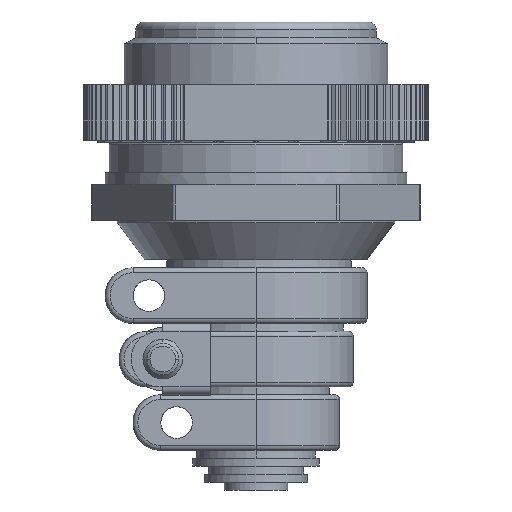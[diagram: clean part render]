
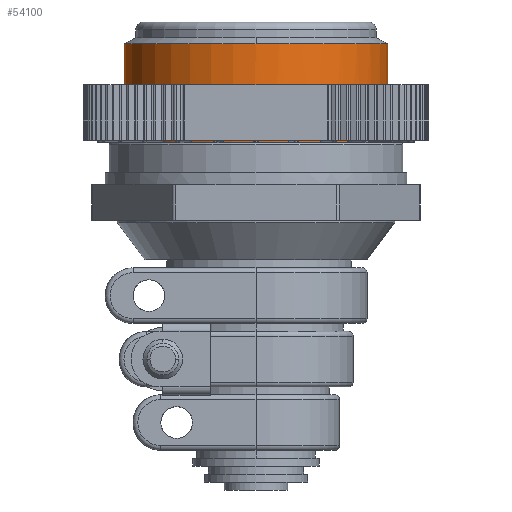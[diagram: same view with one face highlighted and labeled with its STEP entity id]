
A CAD part, left-side view. The second image highlights one B-rep face of the part: STEP entity #54100.
In plain terms, the highlighted cylindrical face has radius 16.625 mm (diameter 33.249 mm), a partial arc.
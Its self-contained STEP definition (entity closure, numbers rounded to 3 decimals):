
#19810=CARTESIAN_POINT('',(48.453,68.49,11.837))
;
#19820=DIRECTION('',(0.,0.,-1.));
#19830=VECTOR('',#19820,1.);
#19840=LINE('',#19810,#19830);
#19850=CARTESIAN_POINT('',(48.453,68.49,-2.771)
);
#19860=VERTEX_POINT('',#19850);
#19870=CARTESIAN_POINT('',(48.453,68.49,-16.5)
);
#19880=VERTEX_POINT('',#19870);
#19890=EDGE_CURVE('',#19860,#19880,#19840,.T.);
#19910=CARTESIAN_POINT('',(48.453,51.865,-16.5)
);
#19920=DIRECTION('',(0.,0.,-1.));
#19930=DIRECTION('',(0.,-1.,0.));
#19940=AXIS2_PLACEMENT_3D('',#19910,#19920,#19930);
#19950=CIRCLE('',#19940,16.625);
#19960=CARTESIAN_POINT('',(48.453,35.241,-16.5)
);
#19970=VERTEX_POINT('',#19960);
#20000=CARTESIAN_POINT('',(48.453,35.241,11.837))
;
#20010=DIRECTION('',(0.,0.,-1.));
#20020=VECTOR('',#20010,1.);
#20030=LINE('',#20000,#20020);
#20040=CARTESIAN_POINT('',(48.453,35.241,-2.771)
);
#20050=VERTEX_POINT('',#20040);
#20060=EDGE_CURVE('',#20050,#19970,#20030,.T.);
#20080=CARTESIAN_POINT('',(48.453,51.865,-2.771)
);
#20090=DIRECTION('',(0.,0.,1.));
#20100=DIRECTION('',(0.,1.,0.));
#20110=AXIS2_PLACEMENT_3D('',#20080,#20090,#20100);
#20120=CIRCLE('',#20110,16.625);
#20960=CARTESIAN_POINT('',(31.828,51.865,-2.771)
);
#20970=VERTEX_POINT('',#20960);
#21000=EDGE_CURVE('',#19860,#20970,#20120,.T.);
#21270=CARTESIAN_POINT('',(32.102,54.872,
-16.5));
#21280=VERTEX_POINT('',#21270);
#21290=EDGE_CURVE('',#21280,#19880,#19950,.T.);
#21310=EDGE_CURVE('',#19970,#21280,#19950,.T.);
#52420=EDGE_CURVE('',#20970,#20050,#20120,.T.);
#53970=CARTESIAN_POINT('',(48.453,51.865,11.837))
;
#53980=DIRECTION('',(0.,0.,-1.));
#53990=DIRECTION('',(0.,-1.,0.));
#54000=AXIS2_PLACEMENT_3D('',#53970,#53980,#53990);
#54010=CYLINDRICAL_SURFACE('',#54000,16.625);
#54020=ORIENTED_EDGE('',*,*,#21290,.F.);
#54030=ORIENTED_EDGE('',*,*,#19890,.T.);
#54040=ORIENTED_EDGE('',*,*,#21000,.F.);
#54050=ORIENTED_EDGE('',*,*,#52420,.F.);
#54060=ORIENTED_EDGE('',*,*,#20060,.F.);
#54070=ORIENTED_EDGE('',*,*,#21310,.F.);
#54080=EDGE_LOOP('',(#54070,#54060,#54050,#54040,#54030,#54020));
#54090=FACE_OUTER_BOUND('',#54080,.T.);
#54100=ADVANCED_FACE('',(#54090),#54010,.T.);
